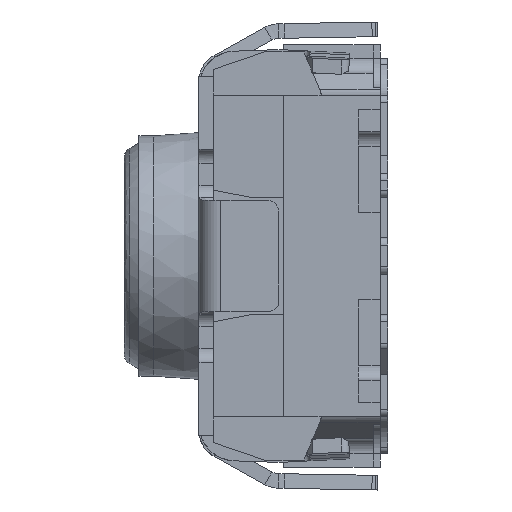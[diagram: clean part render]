
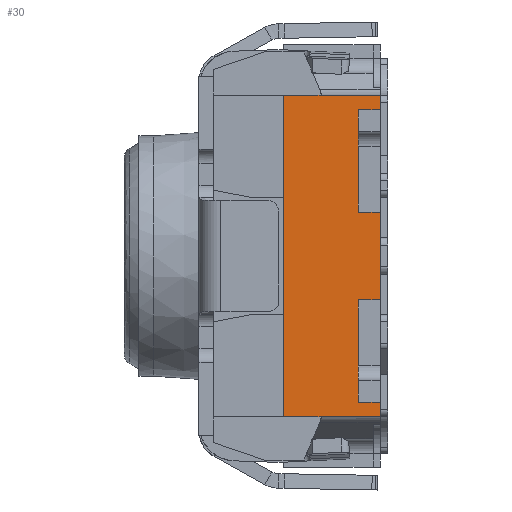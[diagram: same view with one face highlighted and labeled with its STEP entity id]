
A CAD part, left-side view. The second image highlights one B-rep face of the part: STEP entity #30.
In plain terms, the highlighted planar face has unit normal (-1, 0, 0).
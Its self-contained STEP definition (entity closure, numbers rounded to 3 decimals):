
#30 = ADVANCED_FACE ( 'NONE', ( #24765 ), #21769, .F. ) ;
#227 = LINE ( 'NONE', #12472, #26294 ) ;
#364 = LINE ( 'NONE', #9966, #5898 ) ;
#534 = VERTEX_POINT ( 'NONE', #7194 ) ;
#832 = CARTESIAN_POINT ( 'NONE',  ( -1.75, 0.15, -1. ) ) ;
#1256 = VERTEX_POINT ( 'NONE', #19117 ) ;
#1308 = VECTOR ( 'NONE', #23717, 1000. ) ;
#1359 = DIRECTION ( 'NONE',  ( 0., 1., 0. ) ) ;
#1701 = LINE ( 'NONE', #3659, #6511 ) ;
#1925 = LINE ( 'NONE', #25981, #23084 ) ;
#2962 = CARTESIAN_POINT ( 'NONE',  ( -1.75, 0., -1.1 ) ) ;
#3033 = CARTESIAN_POINT ( 'NONE',  ( -1.75, 0.66, -0.3 ) ) ;
#3160 = DIRECTION ( 'NONE',  ( 0., -1., 0. ) ) ;
#3217 = EDGE_CURVE ( 'NONE', #4252, #15987, #19313, .T. ) ;
#3412 = CARTESIAN_POINT ( 'NONE',  ( -1.75, 0.66, 0. ) ) ;
#3636 = CARTESIAN_POINT ( 'NONE',  ( -1.75, 0.15, 0.3 ) ) ;
#3659 = CARTESIAN_POINT ( 'NONE',  ( -1.75, 0.66, 0. ) ) ;
#3669 = VECTOR ( 'NONE', #5774, 1000. ) ;
#3728 = EDGE_CURVE ( 'NONE', #1256, #23002, #6514, .T. ) ;
#4145 = VERTEX_POINT ( 'NONE', #832 ) ;
#4171 = VECTOR ( 'NONE', #16857, 1000. ) ;
#4252 = VERTEX_POINT ( 'NONE', #17605 ) ;
#4312 = EDGE_CURVE ( 'NONE', #19767, #26383, #12089, .T. ) ;
#4505 = CARTESIAN_POINT ( 'NONE',  ( -1.75, 0.66, -1.1 ) ) ;
#4701 = VECTOR ( 'NONE', #7992, 1000. ) ;
#4747 = DIRECTION ( 'NONE',  ( 0., 0., -1. ) ) ;
#4976 = VERTEX_POINT ( 'NONE', #7953 ) ;
#5081 = VERTEX_POINT ( 'NONE', #2962 ) ;
#5291 = LINE ( 'NONE', #8667, #10773 ) ;
#5406 = CARTESIAN_POINT ( 'NONE',  ( -1.75, 0., -1.445 ) ) ;
#5502 = DIRECTION ( 'NONE',  ( 0., 0., -1. ) ) ;
#5548 = EDGE_CURVE ( 'NONE', #15987, #1256, #1925, .T. ) ;
#5600 = CARTESIAN_POINT ( 'NONE',  ( -1.75, 0.15, 0. ) ) ;
#5734 = DIRECTION ( 'NONE',  ( 0., 0., 1. ) ) ;
#5774 = DIRECTION ( 'NONE',  ( 0., 0., -1. ) ) ;
#5898 = VECTOR ( 'NONE', #22196, 1000. ) ;
#6511 = VECTOR ( 'NONE', #5734, 1000. ) ;
#6514 = LINE ( 'NONE', #5600, #3669 ) ;
#6876 = VERTEX_POINT ( 'NONE', #18460 ) ;
#7194 = CARTESIAN_POINT ( 'NONE',  ( -1.75, 0., -0.3 ) ) ;
#7524 = EDGE_CURVE ( 'NONE', #4976, #5081, #17281, .T. ) ;
#7953 = CARTESIAN_POINT ( 'NONE',  ( -1.75, 0., -1. ) ) ;
#7992 = DIRECTION ( 'NONE',  ( 0., -1., 0. ) ) ;
#8062 = EDGE_CURVE ( 'NONE', #23002, #20789, #25904, .T. ) ;
#8667 = CARTESIAN_POINT ( 'NONE',  ( -1.75, 0.15, 0. ) ) ;
#8971 = ORIENTED_EDGE ( 'NONE', *, *, #3728, .F. ) ;
#9093 = ORIENTED_EDGE ( 'NONE', *, *, #25793, .F. ) ;
#9356 = AXIS2_PLACEMENT_3D ( 'NONE', #3412, #17746, #5502 ) ;
#9865 = EDGE_CURVE ( 'NONE', #6876, #19767, #21155, .T. ) ;
#9966 = CARTESIAN_POINT ( 'NONE',  ( -1.75, 0.4, -1.1 ) ) ;
#10093 = ORIENTED_EDGE ( 'NONE', *, *, #7524, .F. ) ;
#10389 = EDGE_CURVE ( 'NONE', #20789, #534, #227, .T. ) ;
#10421 = CARTESIAN_POINT ( 'NONE',  ( -1.75, 0.15, -0.3 ) ) ;
#10670 = DIRECTION ( 'NONE',  ( 0., 0., -1. ) ) ;
#10712 = ORIENTED_EDGE ( 'NONE', *, *, #9865, .F. ) ;
#10773 = VECTOR ( 'NONE', #10670, 1000. ) ;
#11055 = VERTEX_POINT ( 'NONE', #4505 ) ;
#11112 = ORIENTED_EDGE ( 'NONE', *, *, #17224, .F. ) ;
#11268 = ORIENTED_EDGE ( 'NONE', *, *, #23342, .F. ) ;
#11767 = VERTEX_POINT ( 'NONE', #10421 ) ;
#12089 = LINE ( 'NONE', #15632, #20346 ) ;
#12472 = CARTESIAN_POINT ( 'NONE',  ( -1.75, 0., -1.445 ) ) ;
#12772 = EDGE_CURVE ( 'NONE', #11055, #5081, #364, .T. ) ;
#13540 = VECTOR ( 'NONE', #4747, 1000. ) ;
#13960 = CARTESIAN_POINT ( 'NONE',  ( -1.75, 0., -1.445 ) ) ;
#14162 = CARTESIAN_POINT ( 'NONE',  ( -1.75, 0., 0.3 ) ) ;
#14283 = CARTESIAN_POINT ( 'NONE',  ( -1.75, 0.66, 0.4 ) ) ;
#14490 = ORIENTED_EDGE ( 'NONE', *, *, #10389, .F. ) ;
#14517 = DIRECTION ( 'NONE',  ( 0., 0., -1. ) ) ;
#14622 = EDGE_CURVE ( 'NONE', #11767, #4145, #5291, .T. ) ;
#15286 = EDGE_CURVE ( 'NONE', #26383, #4252, #17056, .T. ) ;
#15632 = CARTESIAN_POINT ( 'NONE',  ( -1.75, 0.66, 0. ) ) ;
#15920 = DIRECTION ( 'NONE',  ( 0., 0., 1. ) ) ;
#15987 = VERTEX_POINT ( 'NONE', #25941 ) ;
#16857 = DIRECTION ( 'NONE',  ( 0., 0., 1. ) ) ;
#17056 = LINE ( 'NONE', #21719, #1308 ) ;
#17224 = EDGE_CURVE ( 'NONE', #11055, #6876, #1701, .T. ) ;
#17281 = LINE ( 'NONE', #13960, #22715 ) ;
#17333 = CARTESIAN_POINT ( 'NONE',  ( -1.75, 0.66, 1.1 ) ) ;
#17605 = CARTESIAN_POINT ( 'NONE',  ( -1.75, 0., 1.1 ) ) ;
#17746 = DIRECTION ( 'NONE',  ( 1., 0., 0. ) ) ;
#17769 = ORIENTED_EDGE ( 'NONE', *, *, #14622, .F. ) ;
#18049 = EDGE_LOOP ( 'NONE', ( #14490, #19397, #8971, #21385, #25848, #26063, #19202, #10712, #11112, #24408, #10093, #11268, #17769, #9093 ) ) ;
#18269 = LINE ( 'NONE', #3033, #23055 ) ;
#18460 = CARTESIAN_POINT ( 'NONE',  ( -1.75, 0.66, -0.4 ) ) ;
#19117 = CARTESIAN_POINT ( 'NONE',  ( -1.75, 0.15, 1. ) ) ;
#19202 = ORIENTED_EDGE ( 'NONE', *, *, #4312, .F. ) ;
#19313 = LINE ( 'NONE', #5406, #13540 ) ;
#19350 = LINE ( 'NONE', #25657, #24198 ) ;
#19397 = ORIENTED_EDGE ( 'NONE', *, *, #8062, .F. ) ;
#19417 = DIRECTION ( 'NONE',  ( 0., 1., 0. ) ) ;
#19767 = VERTEX_POINT ( 'NONE', #14283 ) ;
#20346 = VECTOR ( 'NONE', #15920, 1000. ) ;
#20789 = VERTEX_POINT ( 'NONE', #14162 ) ;
#20877 = CARTESIAN_POINT ( 'NONE',  ( -1.75, 0.66, 0. ) ) ;
#21155 = LINE ( 'NONE', #20877, #4171 ) ;
#21385 = ORIENTED_EDGE ( 'NONE', *, *, #5548, .F. ) ;
#21719 = CARTESIAN_POINT ( 'NONE',  ( -1.75, 0.66, 1.1 ) ) ;
#21769 = PLANE ( 'NONE',  #9356 ) ;
#22196 = DIRECTION ( 'NONE',  ( 0., -1., 0. ) ) ;
#22276 = CARTESIAN_POINT ( 'NONE',  ( -1.75, 0.66, 0.3 ) ) ;
#22715 = VECTOR ( 'NONE', #26216, 1000. ) ;
#23002 = VERTEX_POINT ( 'NONE', #3636 ) ;
#23055 = VECTOR ( 'NONE', #19417, 1000. ) ;
#23084 = VECTOR ( 'NONE', #1359, 1000. ) ;
#23342 = EDGE_CURVE ( 'NONE', #4145, #4976, #19350, .T. ) ;
#23717 = DIRECTION ( 'NONE',  ( 0., -1., 0. ) ) ;
#24198 = VECTOR ( 'NONE', #3160, 1000. ) ;
#24408 = ORIENTED_EDGE ( 'NONE', *, *, #12772, .T. ) ;
#24765 = FACE_OUTER_BOUND ( 'NONE', #18049, .T. ) ;
#25657 = CARTESIAN_POINT ( 'NONE',  ( -1.75, 0.66, -1. ) ) ;
#25793 = EDGE_CURVE ( 'NONE', #534, #11767, #18269, .T. ) ;
#25848 = ORIENTED_EDGE ( 'NONE', *, *, #3217, .F. ) ;
#25904 = LINE ( 'NONE', #22276, #4701 ) ;
#25941 = CARTESIAN_POINT ( 'NONE',  ( -1.75, 0., 1. ) ) ;
#25981 = CARTESIAN_POINT ( 'NONE',  ( -1.75, 0.66, 1. ) ) ;
#26063 = ORIENTED_EDGE ( 'NONE', *, *, #15286, .F. ) ;
#26216 = DIRECTION ( 'NONE',  ( 0., 0., -1. ) ) ;
#26294 = VECTOR ( 'NONE', #14517, 1000. ) ;
#26383 = VERTEX_POINT ( 'NONE', #17333 ) ;
